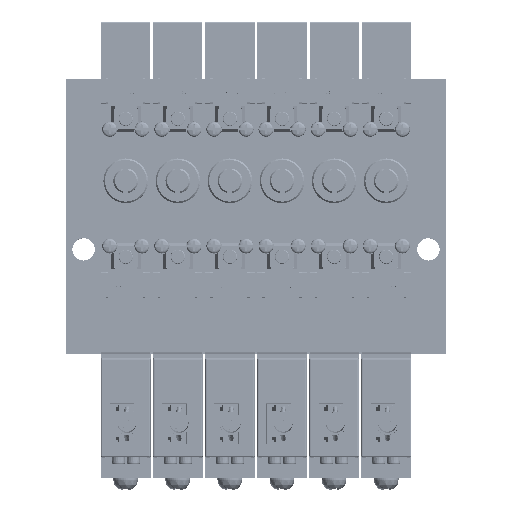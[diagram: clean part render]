
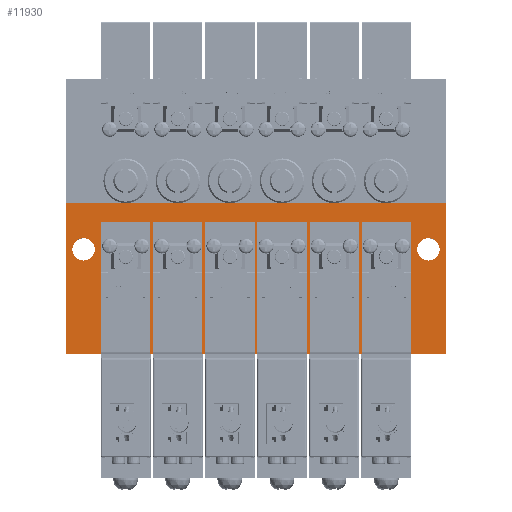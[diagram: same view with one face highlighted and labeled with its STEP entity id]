
A CAD part, top view. The second image highlights one B-rep face of the part: STEP entity #11930.
In plain terms, the highlighted planar face has unit normal (0, 0, 1).
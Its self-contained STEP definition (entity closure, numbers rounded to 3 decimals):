
#11930=ADVANCED_FACE('',(#20216,#20217,#20218),#20219,.F.);
#20216=FACE_BOUND('',#36944,.T.);
#20217=FACE_BOUND('',#36945,.T.);
#20218=FACE_OUTER_BOUND('',#36946,.T.);
#20219=PLANE('',#36947);
#36944=EDGE_LOOP('',(#56400));
#36945=EDGE_LOOP('',(#56401));
#36946=EDGE_LOOP('',(#56402,#56403,#56404,#56405));
#36947=AXIS2_PLACEMENT_3D('',#56406,#56407,#56408);
#56400=ORIENTED_EDGE('',*,*,#121527,.F.);
#56401=ORIENTED_EDGE('',*,*,#121528,.F.);
#56402=ORIENTED_EDGE('',*,*,#121524,.F.);
#56403=ORIENTED_EDGE('',*,*,#121537,.F.);
#56404=ORIENTED_EDGE('',*,*,#121493,.T.);
#56405=ORIENTED_EDGE('',*,*,#121536,.T.);
#56406=CARTESIAN_POINT('',(-76.5,30.3,14.8));
#56407=DIRECTION('',(0.0,0.0,-1.0));
#56408=DIRECTION('',(1.0,0.0,0.0));
#121493=EDGE_CURVE('',#142616,#142614,#142617,.T.);
#121524=EDGE_CURVE('',#142671,#142673,#142674,.T.);
#121527=EDGE_CURVE('',#142678,#142678,#142679,.T.);
#121528=EDGE_CURVE('',#142680,#142680,#142681,.T.);
#121536=EDGE_CURVE('',#142614,#142673,#142695,.T.);
#121537=EDGE_CURVE('',#142616,#142671,#142696,.T.);
#142614=VERTEX_POINT('',#178129);
#142616=VERTEX_POINT('',#178132);
#142617=LINE('',#178133,#178134);
#142671=VERTEX_POINT('',#178201);
#142673=VERTEX_POINT('',#178204);
#142674=LINE('',#178205,#178206);
#142678=VERTEX_POINT('',#178212);
#142679=CIRCLE('',#178213,2.25);
#142680=VERTEX_POINT('',#178214);
#142681=CIRCLE('',#178215,2.25);
#142695=LINE('',#178230,#178231);
#142696=LINE('',#178232,#178233);
#178129=CARTESIAN_POINT('',(-76.5,0.,14.8));
#178132=CARTESIAN_POINT('',(-76.5,30.3,14.8));
#178133=CARTESIAN_POINT('',(-76.5,30.3,14.8));
#178134=VECTOR('',#233652,1.0);
#178201=CARTESIAN_POINT('',(0.0,30.3,14.8));
#178204=CARTESIAN_POINT('',(0.0,0.,14.8));
#178205=CARTESIAN_POINT('',(0.0,30.3,14.8));
#178206=VECTOR('',#233715,1.0);
#178212=CARTESIAN_POINT('',(-1.25,21.0,14.8));
#178213=AXIS2_PLACEMENT_3D('',#233718,#233719,#233720);
#178214=CARTESIAN_POINT('',(-70.75,21.0,14.8));
#178215=AXIS2_PLACEMENT_3D('',#233721,#233722,#233723);
#178230=CARTESIAN_POINT('',(-76.5,0.,14.8));
#178231=VECTOR('',#233743,1.0);
#178232=CARTESIAN_POINT('',(-76.5,30.3,14.8));
#178233=VECTOR('',#233744,1.0);
#233652=DIRECTION('',(0.0,-1.0,0.0));
#233715=DIRECTION('',(0.0,-1.0,0.0));
#233718=CARTESIAN_POINT('',(-3.5,21.0,14.8));
#233719=DIRECTION('',(0.0,0.0,1.0));
#233720=DIRECTION('',(1.0,0.0,0.0));
#233721=CARTESIAN_POINT('',(-73.0,21.0,14.8));
#233722=DIRECTION('',(0.0,0.0,1.0));
#233723=DIRECTION('',(1.0,0.0,0.0));
#233743=DIRECTION('',(1.0,0.0,0.0));
#233744=DIRECTION('',(1.0,0.0,0.0));
